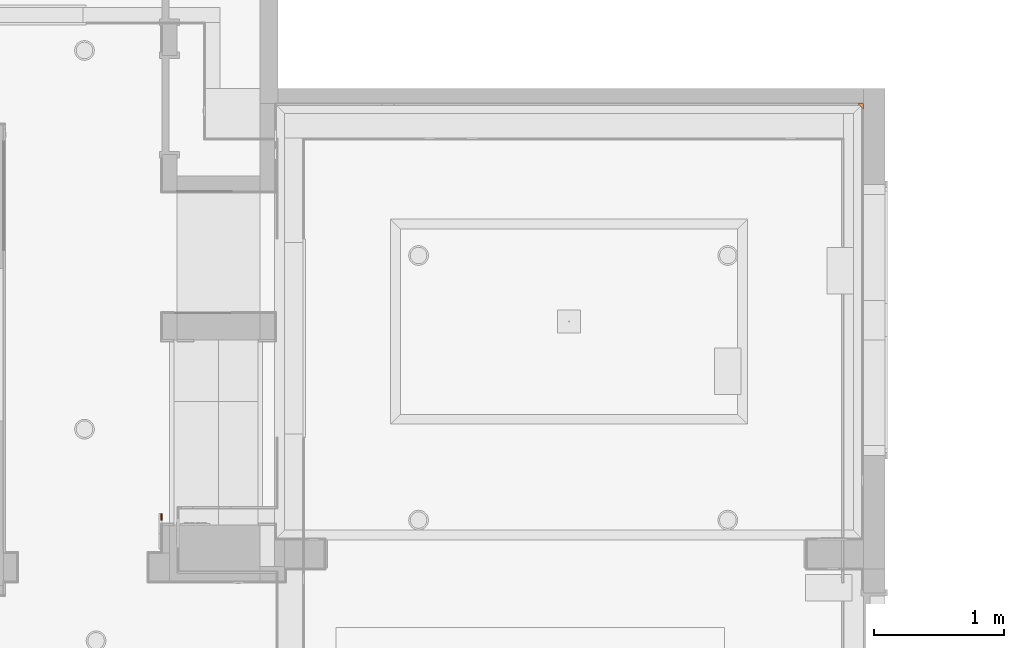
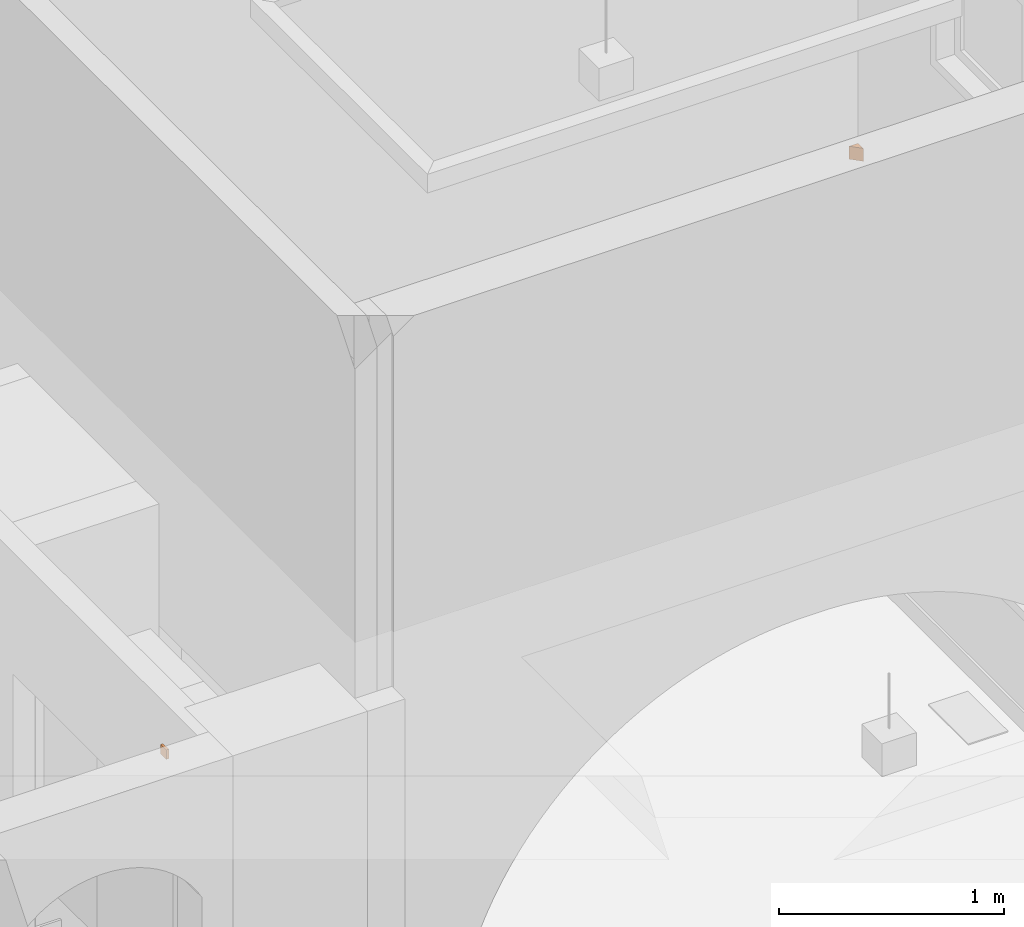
# One storey, part 57 of 60: 2 proxies.
"""IFC2X3 building model written with IfcOpenShell, lengths in feet."""

from ifc_helpers import new_model, entity, si_unit, converted_unit, direction, frame, origin, origin_2d_with_axis, place, context, subcontext, project, spatial, polyline, rectangle, outline, extrude, source, transform, mapped, material, type_object, type_shapes, element, save


model = new_model("IFC2X3")

# Units and contexts
model_context = context("Model", 3, precision=0.0001, world=origin(), true_north=direction((6.123031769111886e-17, 1.0)))
plan_context = context("Plan", 3, precision=0.0001, world=origin(), true_north=direction((6.123031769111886e-17, 1.0)))
body_context = subcontext(model_context, "Body", "Model", "MODEL_VIEW")
ifc_project = project(units=[converted_unit("LENGTHUNIT", "FOOT", entity("IfcLengthMeasure", 0.3048), si_unit("LENGTHUNIT", "METRE"), dimensions=[1, 0, 0, 0, 0, 0, 0]), converted_unit("AREAUNIT", "SQUARE FOOT", entity("IfcAreaMeasure", 0.09290304), si_unit("AREAUNIT", "SQUARE_METRE"), dimensions=[2, 0, 0, 0, 0, 0, 0]), converted_unit("PLANEANGLEUNIT", "DEGREE", entity("IfcPlaneAngleMeasure", 0.017453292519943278), si_unit("PLANEANGLEUNIT", "RADIAN"), dimensions=[0, 0, 0, 0, 0, 0, 0])], contexts=[model_context, plan_context])

# Site, building, storey
site_placement = place(None, origin())
site = spatial("IfcSite", under=ifc_project, at=site_placement, Name="Default", CompositionType="ELEMENT")
building_placement = place(site_placement, origin())
building = spatial("IfcBuilding", under=site, at=building_placement, CompositionType="ELEMENT")
storey_placement = place(building_placement, origin())
storey = spatial("IfcBuildingStorey", under=building, at=storey_placement, Name="First floor", CompositionType="ELEMENT", Elevation=0.0)

# Proxies
ifc_material = material(Name="Default New Material")
building_element_proxy_type_1 = type_object("IfcBuildingElementProxyType", Name="Specialty Equipment 1:Specialty Equipment 1", PredefinedType="NOTDEFINED", material=ifc_material)
shared_shape_1 = source(origin(), body_context, "Body", "SweptSolid", [
    extrude(outline(polyline([(-0.050808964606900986, -0.05080896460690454), (0.10161792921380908, -0.05080896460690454), (-0.050808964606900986, 0.10161792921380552), (-0.050808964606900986, -0.05080896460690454)])), frame((35.07419103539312, 27.69919103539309, 17.917314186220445), z_axis=(0.0, 0.0, 1.0), x_axis=(-1.0, 0.0, 0.0)), (0.0, 0.0, 1.0), 0.23047227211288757),
])
type_shapes(building_element_proxy_type_1, [shared_shape_1])
proxy_1_placement = place(storey_placement, origin())
element("IfcBuildingElementProxy", 1, at=proxy_1_placement, inside=storey, type_object=building_element_proxy_type_1, material=ifc_material, Name="Specialty Equipment 1:Specialty Equipment 1", ObjectType="Specialty Equipment 1:Specialty Equipment 1", context=body_context, shape_type="MappedRepresentation", body=[
    mapped(shared_shape_1, transform((0.0, 0.0, 0.0), scale=1.0)),
])
building_element_proxy_type_2 = type_object("IfcBuildingElementProxyType", Name="Specialty Equipment_1:Specialty Equipment_1", PredefinedType="NOTDEFINED", material=ifc_material)
shared_shape_2 = source(origin(), body_context, "Body", "SweptSolid", [
    extrude(rectangle(XDim=0.16666666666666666, YDim=0.04166666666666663, at=origin_2d_with_axis()), frame((0.0, -0.020833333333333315, 0.0), z_axis=(0.0, 0.0, 1.0), x_axis=(-1.0, 0.0, 0.0)), (0.0, 0.0, 1.0), 0.16666666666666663),
])
type_shapes(building_element_proxy_type_2, [shared_shape_2])
proxy_2_placement = place(storey_placement, frame((17.41666666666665, 17.33298816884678, 19.75), z_axis=(0.0, 0.0, 1.0), x_axis=(0.0, 1.0, 0.0)))
element("IfcBuildingElementProxy", 2, at=proxy_2_placement, inside=storey, type_object=building_element_proxy_type_2, material=ifc_material, Name="Specialty Equipment_1:Specialty Equipment_1", ObjectType="Specialty Equipment_1:Specialty Equipment_1", context=body_context, shape_type="MappedRepresentation", body=[
    mapped(shared_shape_2, transform((0.0, 0.0, 0.0), scale=1.0)),
])

save(model, "model.ifc")
